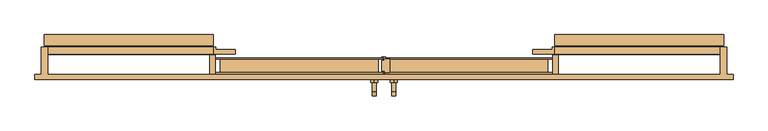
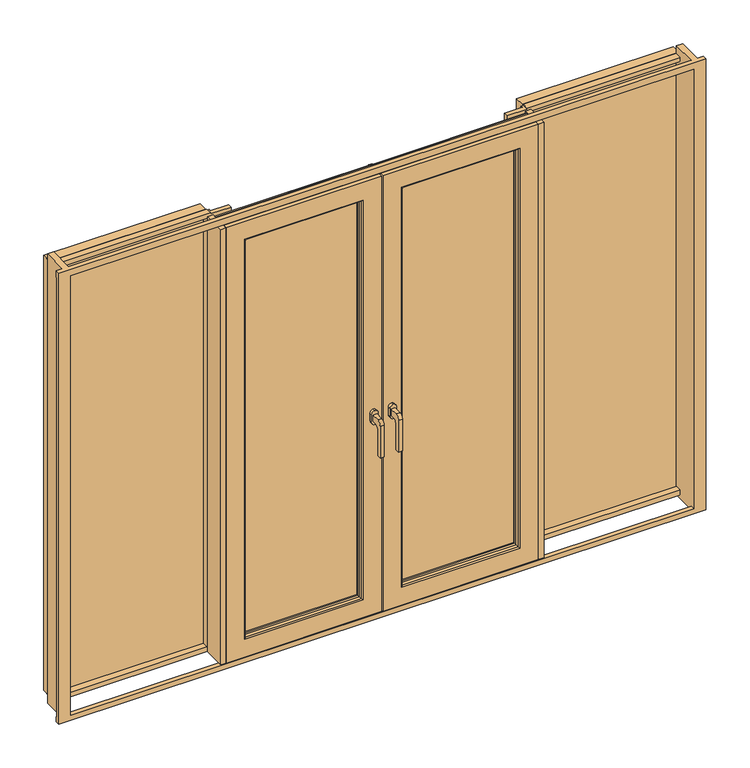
"""IFC4 building model written with IfcOpenShell, lengths in millimetres: door geometry, 4_pod-kli_2+2fix : 4_pod-kli_2+2fix."""

import ifcopenshell
import ifcopenshell.guid

model = None  # the IFC model being written
_history = None  # IfcOwnerHistory: only IFC2X3 demands one
_inside = {}  # id of a spatial element -> (the spatial element, [elements in it])
_under = {}  # id of a project, library or spatial element -> (it, [spatial elements below it])
_declared = {}  # id of a project -> (the project, [libraries it declares])
_typed = {}  # id of a type object -> (the type object, [elements of that type])
_made_of = {}  # id of a material, layer set ... -> (it, [elements and type objects made of it])


def new_model(schema):
    """Start an empty IFC model of exactly this schema.

    Asked for "IFC4X3", IfcOpenShell would pick the latest addendum, in which some entities
    have other attributes; the version numbers below select the first issue.
    IFC2X3 requires an IfcOwnerHistory on every rooted entity: one is made here for all.
    """
    global model, _history
    if schema == "IFC4X3":
        model = ifcopenshell.file(schema_version=(4, 3, 0, 0))
    else:
        model = ifcopenshell.file(schema=schema)
    _inside.clear()
    _under.clear()
    _declared.clear()
    _typed.clear()
    _made_of.clear()
    _history = None
    if model.schema == "IFC2X3":
        org = make("IfcOrganization", Name="unknown")
        user = make(
            "IfcPersonAndOrganization",
            ThePerson=make("IfcPerson", FamilyName="unknown"),
            TheOrganization=org,
        )
        app = make(
            "IfcApplication",
            ApplicationDeveloper=org,
            Version="unknown",
            ApplicationFullName="unknown",
            ApplicationIdentifier="unknown",
        )
        _history = make(
            "IfcOwnerHistory",
            OwningUser=user,
            OwningApplication=app,
            ChangeAction="ADDED",
            CreationDate=0,
        )
    return model


def make(cls, **values):
    """One entity of the class cls with the attributes given. An attribute that is None is left unset."""
    return model.create_entity(
        cls, **{name: value for name, value in values.items() if value is not None}
    )


def rooted(cls, **values):
    """An entity with a GlobalId (a new one), such as an element, a storey or a relation."""
    return make(cls, GlobalId=ifcopenshell.guid.new(), OwnerHistory=_history, **values)


def si_unit(unit_type, name, prefix=None):
    """IfcSIUnit, for example si_unit("LENGTHUNIT", "METRE", prefix="MILLI")."""
    return make("IfcSIUnit", UnitType=unit_type, Prefix=prefix, Name=name)


def assignment(units):
    """IfcUnitAssignment: the units of a project."""
    return None if units is None else make("IfcUnitAssignment", Units=units)


def point(xyz):
    """IfcCartesianPoint."""
    return None if xyz is None else make("IfcCartesianPoint", Coordinates=xyz)


def direction(xyz):
    """IfcDirection."""
    return None if xyz is None else make("IfcDirection", DirectionRatios=xyz)


def frame(location, z_axis=None, x_axis=None):
    """IfcAxis2Placement3D, a coordinate frame: its origin and axes. An axis left out is left unset."""
    return make(
        "IfcAxis2Placement3D",
        Location=point(location),
        Axis=direction(z_axis),
        RefDirection=direction(x_axis),
    )


def frame_2d(location, x_axis=None):
    """IfcAxis2Placement2D, a coordinate frame in the plane: its origin and x axis."""
    return make(
        "IfcAxis2Placement2D", Location=point(location), RefDirection=direction(x_axis)
    )


def origin():
    """The frame at (0, 0, 0) with its axes left unset."""
    return frame((0.0, 0.0, 0.0))


def place(relative_to, where):
    """IfcLocalPlacement: puts the frame where relative to a parent placement (None: the world)."""
    return make(
        "IfcLocalPlacement", PlacementRelTo=relative_to, RelativePlacement=where
    )


def context(
    kind, dimensions, precision=None, world=None, true_north=None, identifier=None
):
    """IfcGeometricRepresentationContext, for example the 3D "Model" context."""
    return make(
        "IfcGeometricRepresentationContext",
        ContextIdentifier=identifier,
        ContextType=kind,
        CoordinateSpaceDimension=dimensions,
        Precision=precision,
        WorldCoordinateSystem=world,
        TrueNorth=true_north,
    )


def project(units=None, contexts=None):
    """IfcProject with its units and contexts."""
    return rooted(
        "IfcProject",
        Name="project",
        RepresentationContexts=contexts,
        UnitsInContext=assignment(units),
    )


def spatial(cls, under=None, at=None, **own):
    """A site, building, storey or space (cls), placed at a placement, below another one or the project."""
    s = rooted(cls, ObjectPlacement=at, **own)
    if under is not None:
        _under.setdefault(under.id(), (under, []))[1].append(s)
    return s


def polyline(points):
    """IfcPolyline through the points."""
    return make("IfcPolyline", Points=[point(p) for p in points])


def circle_curve(where, radius):
    """IfcCircle in the frame where."""
    return make("IfcCircle", Position=where, Radius=radius)


def ellipse_curve(where, semi_axis1, semi_axis2):
    """IfcEllipse in the frame where."""
    return make(
        "IfcEllipse", Position=where, SemiAxis1=semi_axis1, SemiAxis2=semi_axis2
    )


def trimmed(basis, trim1, trim2, sense, master):
    """IfcTrimmedCurve: the piece of a basis curve between two trims."""
    return make(
        "IfcTrimmedCurve",
        BasisCurve=basis,
        Trim1=trim1,
        Trim2=trim2,
        SenseAgreement=sense,
        MasterRepresentation=master,
    )


def segment(curve, same_sense, transition):
    """IfcCompositeCurveSegment."""
    return make(
        "IfcCompositeCurveSegment",
        Transition=transition,
        SameSense=same_sense,
        ParentCurve=curve,
    )


def composite_curve(segments, self_intersect=None):
    """IfcCompositeCurve: segments joined end to end."""
    return make("IfcCompositeCurve", Segments=segments, SelfIntersect=self_intersect)


def outline(outer, holes=None, kind="AREA"):
    """IfcArbitraryClosedProfileDef: a profile drawn as a closed curve; with holes, ...WithVoids."""
    if holes is None:
        return make("IfcArbitraryClosedProfileDef", ProfileType=kind, OuterCurve=outer)
    return make(
        "IfcArbitraryProfileDefWithVoids",
        ProfileType=kind,
        OuterCurve=outer,
        InnerCurves=holes,
    )


def extrude(swept, where, along, depth):
    """IfcExtrudedAreaSolid: the profile swept, set in the frame where, extruded along a direction by depth."""
    return make(
        "IfcExtrudedAreaSolid",
        SweptArea=swept,
        Position=where,
        ExtrudedDirection=direction(along),
        Depth=depth,
    )


def faces_of(points, faces, orient=None, outer=None):
    """IfcFace entities. A face is a list of loops; a loop is a list of indices into points, from 0.

    orient and outer hold one flag for each loop. By default every Orientation is true, the
    first loop of a face is its IfcFaceOuterBound and the others are IfcFaceBound.
    """
    made = []
    for i, loops in enumerate(faces):
        bounds = []
        for j, loop in enumerate(loops):
            is_outer = j == 0 if outer is None else outer[i][j]
            bounds.append(
                make(
                    "IfcFaceOuterBound" if is_outer else "IfcFaceBound",
                    Bound=make("IfcPolyLoop", Polygon=[points[k] for k in loop]),
                    Orientation=True if orient is None else orient[i][j],
                )
            )
        made.append(make("IfcFace", Bounds=bounds))
    return made


def faceted_brep(points, faces, orient=None, outer=None, voids=None):
    """IfcFacetedBrep: a solid bounded by flat faces; with voids (closed shells), ...WithVoids."""
    shared = [point(p) for p in points]
    hull = make("IfcClosedShell", CfsFaces=faces_of(shared, faces, orient, outer))
    if voids is None:
        return make("IfcFacetedBrep", Outer=hull)
    return make(
        "IfcFacetedBrepWithVoids",
        Outer=hull,
        Voids=[
            make(cls, CfsFaces=faces_of(shared, fs, o, b)) for cls, fs, o, b in voids
        ],
    )


def shape(context_of_items, identifier, shape_type, items):
    """IfcShapeRepresentation: the items that make up one representation, for example the "Body"."""
    return make(
        "IfcShapeRepresentation",
        ContextOfItems=context_of_items,
        RepresentationIdentifier=identifier,
        RepresentationType=shape_type,
        Items=items,
    )


def source(mapping_origin, context_of_items, identifier, shape_type, items):
    """IfcRepresentationMap: a shape defined once, which mapped items show again and again."""
    return make(
        "IfcRepresentationMap",
        MappingOrigin=mapping_origin,
        MappedRepresentation=shape(context_of_items, identifier, shape_type, items),
    )


def transform(
    local_origin,
    x_axis=None,
    y_axis=None,
    z_axis=None,
    scale=None,
    scale2=None,
    scale3=None,
    uniform=True,
):
    """IfcCartesianTransformationOperator3D, or its non-uniform kind. x_axis, y_axis, z_axis: its Axis1, 2, 3."""
    if uniform:
        return make(
            "IfcCartesianTransformationOperator3D",
            Axis1=direction(x_axis),
            Axis2=direction(y_axis),
            LocalOrigin=point(local_origin),
            Scale=scale,
            Axis3=direction(z_axis),
        )
    return make(
        "IfcCartesianTransformationOperator3DnonUniform",
        Axis1=direction(x_axis),
        Axis2=direction(y_axis),
        LocalOrigin=point(local_origin),
        Scale=scale,
        Axis3=direction(z_axis),
        Scale2=scale2,
        Scale3=scale3,
    )


def mapped(mapping_source, mapping_target):
    """IfcMappedItem: shows the shape of a source again, moved by a transform."""
    return make(
        "IfcMappedItem", MappingSource=mapping_source, MappingTarget=mapping_target
    )


def made_of(thing, what):
    """Note that an element or type object is made of a material, layer set ...; save() writes the relation."""
    if what is not None:
        _made_of.setdefault(what.id(), (what, []))[1].append(thing)
    return thing


def element(
    cls,
    number,
    at=None,
    inside=None,
    cuts=None,
    type_object=None,
    material=None,
    context=None,
    identifier="Body",
    shape_type=None,
    held_by="IfcProductDefinitionShape",
    body=None,
    shapes=None,
    **own,
):
    """One element of the class cls, such as IfcWall. Its Tag is "e" and its number.

    at: its placement. inside: the storey or other place that contains it. cuts: it is an
    opening in that element (IfcRelVoidsElement). A single representation is given by context,
    identifier, shape_type and body (its items); several are given by shapes. held_by: the class
    of the entity that holds the representations. save() writes the other relations.
    """
    e = rooted(cls, Tag="e%d" % number, ObjectPlacement=at, **own)
    if body is not None:
        shapes = [shape(context, identifier, shape_type, body)]
    if shapes is not None:
        e.Representation = make(held_by, Representations=shapes)
    if inside is not None:
        _inside.setdefault(inside.id(), (inside, []))[1].append(e)
    if cuts is not None:
        rooted(
            "IfcRelVoidsElement", RelatingBuildingElement=cuts, RelatedOpeningElement=e
        )
    if type_object is not None:
        _typed.setdefault(type_object.id(), (type_object, []))[1].append(e)
    return made_of(e, material)


def aggregate(whole, parts):
    """IfcRelAggregates: a whole, such as a stair, and the parts it consists of."""
    return rooted("IfcRelAggregates", RelatingObject=whole, RelatedObjects=parts)


def save(model, path):
    """Write the relations noted so far, then the file.

    IfcRelAggregates (storeys below a building ...), IfcRelContainedInSpatialStructure (elements
    in a storey), IfcRelDefinesByType, IfcRelAssociatesMaterial and IfcRelDeclares: one each for
    every whole, place, type object, material and project.
    """
    for whole, parts in _under.values():
        aggregate(whole, parts)
    for where, things in _inside.values():
        rooted(
            "IfcRelContainedInSpatialStructure",
            RelatedElements=things,
            RelatingStructure=where,
        )
    for kind, things in _typed.values():
        rooted("IfcRelDefinesByType", RelatedObjects=things, RelatingType=kind)
    for what, things in _made_of.values():
        rooted("IfcRelAssociatesMaterial", RelatedObjects=things, RelatingMaterial=what)
    for by, libraries in _declared.values():
        rooted("IfcRelDeclares", RelatingContext=by, RelatedDefinitions=libraries)
    model.write(path)


def plane_surface(at):
    """IfcPlane: the flat surface through the origin of the frame at, square to its z axis."""
    return make("IfcPlane", Position=at)


def cylinder_surface(at, radius):
    """IfcCylindricalSurface: all points at the distance radius from the z axis of the frame at."""
    return make("IfcCylindricalSurface", Position=at, Radius=radius)


def advanced_brep(points, edges, surfaces, faces):
    """IfcAdvancedBrep: a solid bounded by faces that lie on surfaces and meet in shared edges.

    An edge is (start, end): straight between two places in points (the first is 0);
    or (start, end, curve); or (start, end, curve, False) where it runs against its curve.
    A face is (place in surfaces, loops), or (place, loops, False) where it looks against
    its surface's normal. A loop lists edges by number (the first is 1), with a minus sign
    where the edge is run from its end to its start. The first loop is the outer one.
    """
    corners = [point(p) for p in points]
    vertices = [make("IfcVertexPoint", VertexGeometry=c) for c in corners]
    made = []
    for start, end, *more in edges:
        made.append(
            make(
                "IfcEdgeCurve",
                EdgeStart=vertices[start],
                EdgeEnd=vertices[end],
                EdgeGeometry=more[0] if more else make("IfcPolyline", Points=[corners[start], corners[end]]),
                SameSense=more[1] if len(more) > 1 else True,
            )
        )
    hull = []
    for where, loops, *sense in faces:
        bounds = []
        for j, loop in enumerate(loops):
            ring = [make("IfcOrientedEdge", EdgeElement=made[abs(k) - 1], Orientation=k > 0) for k in loop]
            bounds.append(
                make(
                    "IfcFaceOuterBound" if j == 0 else "IfcFaceBound",
                    Bound=make("IfcEdgeLoop", EdgeList=ring),
                    Orientation=True,
                )
            )
        hull.append(make("IfcAdvancedFace", Bounds=bounds, FaceSurface=surfaces[where], SameSense=sense[0] if sense else True))
    return make("IfcAdvancedBrep", Outer=make("IfcClosedShell", CfsFaces=hull))


def door_345c49a9(model_context):
    return source(origin(), model_context, "Body", "SolidModel", [
        extrude(outline(composite_curve([segment(polyline([(-88.0, 985.0), (-104.0, 985.0)]), True, "CONTINUOUS"), segment(trimmed(circle_curve(frame_2d((-104.0, 960.0)), 25.0), [point((-104.0, 985.0))], [point((-129.0, 960.0))], True, "CARTESIAN"), True, "CONTINUOUS"), segment(polyline([(-129.0, 960.0), (-129.0, 840.0), (-147.0, 840.0), (-147.0, 995.0)]), True, "CONTINUOUS"), segment(trimmed(circle_curve(frame_2d((-127.0, 995.0)), 20.0), [point((-147.0, 995.0))], [point((-127.0, 1015.0))], False, "CARTESIAN"), True, "CONTINUOUS"), segment(polyline([(-127.0, 1015.0), (-88.0, 1015.0), (-88.0, 1000.0), (-88.0, 985.0)]), True, "CONTINUOUS")], self_intersect=False)), frame((-50.8923101, 0.0, 0.0), z_axis=(1.0, 0.0, 0.0), x_axis=(0.0, 1.0, 0.0)), (0.0, 0.0, 1.0), 18.0),
        extrude(outline(composite_curve([segment(polyline([(981.0, -26.8923101), (1019.0, -26.8923101)]), True, "CONTINUOUS"), segment(trimmed(circle_curve(frame_2d((1019.0, -41.8923101)), 15.0), [point((1019.0, -26.8923101))], [point((1034.0, -41.8923101))], False, "CARTESIAN"), True, "CONTINUOUS"), segment(trimmed(circle_curve(frame_2d((1019.0, -41.8923101)), 15.0), [point((1034.0, -41.8923101))], [point((1019.0, -56.8923101))], False, "CARTESIAN"), True, "CONTINUOUS"), segment(polyline([(1019.0, -56.8923101), (981.0, -56.8923101)]), True, "CONTINUOUS"), segment(trimmed(circle_curve(frame_2d((981.0, -41.8923101)), 15.0), [point((981.0, -56.8923101))], [point((966.0, -41.8923101))], False, "CARTESIAN"), True, "CONTINUOUS"), segment(trimmed(circle_curve(frame_2d((981.0, -41.8923101)), 15.0), [point((966.0, -41.8923101))], [point((981.0, -26.8923101))], False, "CARTESIAN"), True, "CONTINUOUS")], self_intersect=False)), frame((0.0, -88.0, 0.0), z_axis=(0.0, 1.0, 0.0), x_axis=(0.0, 0.0, 1.0)), (0.0, 0.0, 1.0), 13.0),
        extrude(outline(polyline([(-749.7497424, -75.0), (-749.7497424, 30.0016512), (-724.45, 30.0016512), (-724.45, -75.0), (-749.7497424, -75.0)])), frame((0.0, 0.0, 27.9994282), z_axis=(0.0, 0.0, 1.0), x_axis=(1.0, 0.0, 0.0)), (0.0, 0.0, 1.0), 2132.0005718),
        advanced_brep(
        [(-638.0766475, -75.0000001, 2073.6269051), (-638.0766475, -75.0000001, 114.3730949), (-633.1239089, -70.6858427, 119.3258335), (-633.1239089, -70.6858427, 2068.6741665), (-630.9503043, -54.9893924, 121.4994381), (-630.9503043, -54.9893924, 2066.5005619), (-88.8730949, -75.0000001, 114.3730949), (-93.8258335, -70.6858427, 119.3258335), (-724.4497424, -75.0, 2160.0), (-724.4497424, -75.0, 28.0), (-2.5, -75.0, 28.0), (-2.5, -75.0, 2160.0), (-88.8730949, -75.0, 2073.6269051), (-724.4497424, -54.8399769, 2160.0), (-724.4497424, -54.8399769, 28.0), (-2.5, -54.8399769, 28.0), (-2.5, -54.8399769, 2160.0), (-657.3503043, -54.8399769, 2092.9005619), (-657.3503043, -54.8399769, 95.0994381), (-69.5994381, -54.8399769, 95.0994381), (-69.5994381, -54.8399769, 2092.9005619), (-657.3503043, -44.9908997, 2092.9005619), (-657.3503043, -44.9908997, 95.0994381), (-69.5994381, -44.9908997, 95.0994381), (-69.5994381, -44.9908997, 2092.9005619), (-630.9503043, -44.9908997, 2066.5005619), (-630.9503043, -44.9908997, 121.4994381), (-95.9994381, -44.9908997, 121.4994381), (-95.9994381, -44.9908997, 2066.5005619), (-95.9994381, -54.9893924, 121.4994381), (-93.8258335, -70.6858427, 2068.6741665), (-95.9994381, -54.9893924, 2066.5005619)],
        [
            (0, 1),
            (1, 2, ellipse_curve(frame((-638.0766475, -70.0000001, 114.3730949), z_axis=(-0.7071067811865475, 0.0, 0.7071067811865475), x_axis=(0.7071067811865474, 0.0, 0.7071067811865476)), 7.0710678, 5.0)),
            (2, 3),
            (3, 0, ellipse_curve(frame((-638.0766475, -70.0000001, 2073.6269051), z_axis=(-0.7071067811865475, 0.0, -0.7071067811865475), x_axis=(-0.7071067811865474, 0.0, 0.7071067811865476)), 7.0710678, 5.0)),
            (2, 4),
            (4, 5),
            (5, 3),
            (1, 6),
            (6, 7, ellipse_curve(frame((-88.8730949, -70.0000001, 114.3730949), z_axis=(-0.7071067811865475, 0.0, -0.7071067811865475), x_axis=(-0.7071067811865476, 0.0, 0.7071067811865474)), 7.0710678, 5.0)),
            (7, 2),
            (8, 9),
            (9, 10),
            (10, 11),
            (11, 8),
            (0, 12),
            (12, 6),
            (13, 14),
            (14, 9),
            (8, 13),
            (14, 15),
            (15, 10),
            (13, 16),
            (16, 15),
            (17, 18),
            (18, 19),
            (19, 20),
            (20, 17),
            (21, 22),
            (22, 18),
            (17, 21),
            (22, 23),
            (23, 19),
            (21, 24),
            (24, 23),
            (25, 26),
            (26, 27),
            (27, 28),
            (28, 25),
            (4, 26),
            (25, 5),
            (4, 29),
            (29, 27),
            (7, 29),
            (12, 30, ellipse_curve(frame((-88.8730949, -70.0000001, 2073.6269051), z_axis=(0.7071067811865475, 0.0, -0.7071067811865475), x_axis=(-0.7071067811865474, 0.0, -0.7071067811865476)), 7.0710678, 5.0)),
            (30, 7),
            (16, 11),
            (24, 20),
            (29, 31),
            (31, 28),
            (30, 31),
            (3, 30),
            (31, 5),
        ],
        [
            cylinder_surface(frame((-638.0766475, -70.0000001, 2188.0), z_axis=(0.0, 0.0, 1.0), x_axis=(-0.00014757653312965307, -0.9999999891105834, 0.0)), 5.0),
            plane_surface(frame((-630.9503043, -54.9893924, 2066.5005619), z_axis=(0.9905477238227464, -0.13716853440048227, 0.0), x_axis=(0.0, 0.0, -1.0))),
            cylinder_surface(frame((-752.4497424, -70.0000001, 114.3730949), z_axis=(-1.0, 0.0, 0.0), x_axis=(0.0, -0.9999999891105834, -0.00014757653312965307)), 5.0),
            plane_surface(frame((-88.8730949, -75.0, 2073.6269051), z_axis=(0.0, -1.0, 0.0), x_axis=(-1.0, 0.0, 0.0))),
            plane_surface(frame((-724.4497424, -75.0, 2160.0), z_axis=(-1.0, 0.0, 0.0), x_axis=(0.0, 0.0, -1.0))),
            plane_surface(frame((-724.4497424, -75.0, 28.0), z_axis=(0.0, 0.0, -1.0), x_axis=(1.0, 0.0, 0.0))),
            plane_surface(frame((-2.5, -54.8399769, 2160.0), z_axis=(0.0, 1.0, 0.0), x_axis=(-1.0, 0.0, 0.0))),
            plane_surface(frame((-657.3503043, -54.8399769, 2092.9005619), z_axis=(-1.0, 0.0, 0.0), x_axis=(0.0, 0.0, -1.0))),
            plane_surface(frame((-657.3503043, -54.8399769, 95.0994381), z_axis=(0.0, 0.0, -1.0), x_axis=(1.0, 0.0, 0.0))),
            plane_surface(frame((-69.5994381, -44.9908997, 2092.9005619), z_axis=(0.0, 1.0, 0.0), x_axis=(-1.0, 0.0, 0.0))),
            plane_surface(frame((-630.9503043, -44.9908997, 2066.5005619), z_axis=(1.0, 0.0, 0.0), x_axis=(0.0, 0.0, -1.0))),
            plane_surface(frame((-630.9503043, -44.9908997, 121.4994381), z_axis=(0.0, 0.0, 1.0), x_axis=(1.0, 0.0, 0.0))),
            plane_surface(frame((-630.9503043, -54.9893924, 121.4994381), z_axis=(0.0, -0.13716853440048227, 0.9905477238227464), x_axis=(1.0, 0.0, 0.0))),
            cylinder_surface(frame((-88.8730949, -70.0000001, 0.0), z_axis=(0.0, 0.0, -1.0), x_axis=(0.00014757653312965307, -0.9999999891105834, 0.0)), 5.0),
            plane_surface(frame((-2.5, -75.0, 28.0), z_axis=(1.0, 0.0, 0.0), x_axis=(0.0, 0.0, 1.0))),
            plane_surface(frame((-69.5994381, -54.8399769, 95.0994381), z_axis=(1.0, 0.0, 0.0), x_axis=(0.0, 0.0, 1.0))),
            plane_surface(frame((-95.9994381, -44.9908997, 121.4994381), z_axis=(-1.0, 0.0, 0.0), x_axis=(0.0, 0.0, 1.0))),
            plane_surface(frame((-95.9994381, -54.9893924, 121.4994381), z_axis=(-0.9905477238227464, -0.13716853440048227, 0.0), x_axis=(0.0, 0.0, 1.0))),
            cylinder_surface(frame((25.5, -70.0000001, 2073.6269051), z_axis=(1.0, 0.0, 0.0), x_axis=(0.0, -0.9999999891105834, 0.00014757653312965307)), 5.0),
            plane_surface(frame((-2.5, -75.0, 2160.0), z_axis=(0.0, 0.0, 1.0), x_axis=(-1.0, 0.0, 0.0))),
            plane_surface(frame((-69.5994381, -54.8399769, 2092.9005619), z_axis=(0.0, 0.0, 1.0), x_axis=(-1.0, 0.0, 0.0))),
            plane_surface(frame((-95.9994381, -44.9908997, 2066.5005619), z_axis=(0.0, 0.0, -1.0), x_axis=(-1.0, 0.0, 0.0))),
            plane_surface(frame((-95.9994381, -54.9893924, 2066.5005619), z_axis=(0.0, -0.13716853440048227, -0.9905477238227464), x_axis=(-1.0, 0.0, 0.0))),
        ],
        [
            (0, [[1, 2, 3, 4]]),
            (1, [[-3, 5, 6, 7]]),
            (2, [[8, 9, 10, -2]]),
            (3, [[11, 12, 13, 14], [-1, 15, 16, -8]]),
            (4, [[17, 18, -11, 19]]),
            (5, [[20, 21, -12, -18]]),
            (6, [[-17, 22, 23, -20], [24, 25, 26, 27]]),
            (7, [[28, 29, -24, 30]]),
            (8, [[31, 32, -25, -29]]),
            (9, [[-28, 33, 34, -31], [35, 36, 37, 38]]),
            (10, [[-6, 39, -35, 40]]),
            (11, [[41, 42, -36, -39]]),
            (12, [[-10, 43, -41, -5]]),
            (13, [[-16, 44, 45, -9]]),
            (14, [[-23, 46, -13, -21]]),
            (15, [[-34, 47, -26, -32]]),
            (16, [[48, 49, -37, -42]]),
            (17, [[-45, 50, -48, -43]]),
            (18, [[-15, -4, 51, -44]]),
            (19, [[-22, -19, -14, -46]]),
            (20, [[-33, -30, -27, -47]]),
            (21, [[52, -40, -38, -49]]),
            (22, [[-51, -7, -52, -50]]),
        ],
    ),
        extrude(outline(polyline([(-646.95031, -36.9872085), (-646.95031, 9.0127085), (-79.9994325, 9.0127085), (-79.9994325, -36.9872085), (-646.95031, -36.9872085)])), frame((0.0, 0.0, 105.4994325), z_axis=(0.0, 0.0, 1.0), x_axis=(1.0, 0.0, 0.0)), (0.0, 0.0, 1.0), 1977.001135),
        faceted_brep([(-2.5, -54.8399769, 28.0), (-724.4497424, -54.8399769, 28.0), (-724.4497424, -45.6389612, 28.0), (-2.5, -45.6389612, 28.0), (-724.4497424, -54.8399769, 2160.0), (-724.4497424, -45.6389612, 2160.0), (-2.5, -45.6389612, 2160.0), (-702.9503146, -45.6389612, 2138.5005722), (-702.9503146, -45.6389612, 49.4994278), (-23.9994278, -45.6389612, 49.4994278), (-23.9994278, -45.6389612, 2138.5005722), (-2.5, -54.8399769, 2160.0), (-657.3503043, -54.8399769, 95.0994381), (-657.3503043, -54.8399769, 2092.9005619), (-69.5994381, -54.8399769, 2092.9005619), (-69.5994381, -54.8399769, 95.0994381), (-69.5994381, -44.9908997, 95.0994381), (-657.3503043, -44.9908997, 95.0994381), (-657.3503043, -44.9908997, 2092.9005619), (-69.5994381, -44.9908997, 2092.9005619), (-630.9503043, -44.9908997, 121.4994381), (-630.9503043, -44.9908997, 2066.5005619), (-95.9994381, -44.9908997, 2066.5005619), (-95.9994381, -44.9908997, 121.4994381), (-95.9994381, -36.9872085, 121.4994381), (-630.9503043, -36.9872085, 121.4994381), (-630.9503043, -36.9872085, 2066.5005619), (-646.95031, -36.9872085, 105.4994325), (-646.95031, -36.9872085, 2082.5005675), (-79.9994325, -36.9872085, 2082.5005675), (-79.9994325, -36.9872085, 105.4994325), (-95.9994381, -36.9872085, 2066.5005619), (-79.9994325, 9.0127085, 105.4994325), (-646.95031, 9.0127085, 105.4994325), (-646.95031, 9.0127085, 2082.5005675), (-79.9994325, 9.0127085, 2082.5005675), (-631.950315, 9.0127085, 120.4994274), (-631.950315, 9.0127085, 2067.5005726), (-94.9994274, 9.0127085, 2067.5005726), (-94.9994274, 9.0127085, 120.4994274), (-94.9994274, 17.0100227, 120.4994274), (-631.950315, 17.0100227, 120.4994274), (-631.950315, 17.0100227, 2067.5005726), (-724.4503143, 17.0100227, 27.9994282), (-724.4503143, 17.0100227, 2160.0005718), (-2.4994282, 17.0100227, 2160.0005718), (-2.4994282, 17.0100227, 27.9994282), (-94.9994274, 17.0100227, 2067.5005726), (-2.4994282, 12.5090496, 27.9994282), (-724.4503143, 12.5090496, 27.9994282), (-724.4503143, 12.5090496, 2160.0005718), (-2.4994282, 12.5090496, 2160.0005718), (-702.9503146, 12.5090496, 49.4994278), (-702.9503146, 12.5090496, 2138.5005722), (-23.9994278, 12.5090496, 2138.5005722), (-23.9994278, 12.5090496, 49.4994278)], [[[0, 1, 2, 3]], [[1, 4, 5, 2]], [[2, 5, 6, 3], [7, 8, 9, 10]], [[4, 1, 0, 11], [12, 13, 14, 15]], [[16, 17, 12, 15]], [[17, 18, 13, 12]], [[18, 17, 16, 19], [20, 21, 22, 23]], [[24, 25, 20, 23]], [[25, 26, 21, 20]], [[27, 28, 29, 30], [26, 25, 24, 31]], [[32, 33, 27, 30]], [[33, 34, 28, 27]], [[34, 33, 32, 35], [36, 37, 38, 39]], [[40, 41, 36, 39]], [[41, 42, 37, 36]], [[43, 44, 45, 46], [42, 41, 40, 47]], [[48, 49, 43, 46]], [[49, 50, 44, 43]], [[50, 49, 48, 51], [52, 53, 54, 55]], [[9, 8, 52, 55]], [[8, 7, 53, 52]], [[11, 0, 3, 6]], [[19, 16, 15, 14]], [[31, 24, 23, 22]], [[35, 32, 30, 29]], [[47, 40, 39, 38]], [[51, 48, 46, 45]], [[10, 9, 55, 54]], [[4, 11, 6, 5]], [[18, 19, 14, 13]], [[26, 31, 22, 21]], [[34, 35, 29, 28]], [[42, 47, 38, 37]], [[50, 51, 45, 44]], [[7, 10, 54, 53]]]),
        extrude(outline(composite_curve([segment(polyline([(-88.0, 985.0), (-104.0, 985.0)]), True, "CONTINUOUS"), segment(trimmed(circle_curve(frame_2d((-104.0, 960.0)), 25.0), [point((-104.0, 985.0))], [point((-129.0, 960.0))], True, "CARTESIAN"), True, "CONTINUOUS"), segment(polyline([(-129.0, 960.0), (-129.0, 840.0), (-147.0, 840.0), (-147.0, 995.0)]), True, "CONTINUOUS"), segment(trimmed(circle_curve(frame_2d((-127.0, 995.0)), 20.0), [point((-147.0, 995.0))], [point((-127.0, 1015.0))], False, "CARTESIAN"), True, "CONTINUOUS"), segment(polyline([(-127.0, 1015.0), (-88.0, 1015.0), (-88.0, 1000.0), (-88.0, 985.0)]), True, "CONTINUOUS")], self_intersect=False)), frame((33.5, 0.0, 0.0), z_axis=(1.0, 0.0, 0.0), x_axis=(0.0, 1.0, 0.0)), (0.0, 0.0, 1.0), 18.0),
        extrude(outline(composite_curve([segment(trimmed(circle_curve(frame_2d((981.0, 42.5)), 15.0), [point((981.0, 27.5))], [point((966.0, 42.5))], False, "CARTESIAN"), True, "CONTINUOUS"), segment(trimmed(circle_curve(frame_2d((981.0, 42.5)), 15.0), [point((966.0, 42.5))], [point((981.0, 57.5))], False, "CARTESIAN"), True, "CONTINUOUS"), segment(polyline([(981.0, 57.5), (1019.0, 57.5)]), True, "CONTINUOUS"), segment(trimmed(circle_curve(frame_2d((1019.0, 42.5)), 15.0), [point((1019.0, 57.5))], [point((1034.0, 42.5))], False, "CARTESIAN"), True, "CONTINUOUS"), segment(trimmed(circle_curve(frame_2d((1019.0, 42.5)), 15.0), [point((1034.0, 42.5))], [point((1019.0, 27.5))], False, "CARTESIAN"), True, "CONTINUOUS"), segment(polyline([(1019.0, 27.5), (981.0, 27.5)]), True, "CONTINUOUS")], self_intersect=False)), frame((0.0, -88.0, 0.0), z_axis=(0.0, 1.0, 0.0), x_axis=(0.0, 0.0, 1.0)), (0.0, 0.0, 1.0), 13.0),
        extrude(outline(polyline([(2.4994282, 12.5016459), (23.9994278, 12.5016459), (23.9994278, -45.647338), (2.5000003, -45.647338), (2.5000003, -41.8000908), (-9.4963189, -39.400827), (-9.4963189, 6.6369539), (0.3030129, 8.5716548), (0.3030129, 17.002619), (-9.4969871, 17.002619), (-9.4969871, 21.097066), (7.3030129, 21.097066), (7.3030129, 17.002619), (2.4994282, 17.002619), (2.4994282, 12.5016459)])), frame((0.0, 0.0, 27.9994282), z_axis=(0.0, 0.0, 1.0), x_axis=(1.0, 0.0, 0.0)), (0.0, 0.0, 1.0), 2132.0005718),
        extrude(outline(polyline([(749.7497424, -75.0), (724.45, -75.0), (724.45, 30.0016512), (749.7497424, 30.0016512), (749.7497424, -75.0)])), frame((0.0, 0.0, 27.9994282), z_axis=(0.0, 0.0, 1.0), x_axis=(1.0, 0.0, 0.0)), (0.0, 0.0, 1.0), 2132.0005718),
        advanced_brep(
        [(638.0766475, -75.0000001, 2073.6269051), (633.1239089, -70.6858427, 2068.6741665), (633.1239089, -70.6858427, 119.3258335), (638.0766475, -75.0000001, 114.3730949), (630.9503043, -54.9893924, 2066.5005619), (630.9503043, -54.9893924, 121.4994381), (93.8258335, -70.6858427, 119.3258335), (88.8730949, -75.0000001, 114.3730949), (724.4497424, -75.0, 2160.0), (2.5, -75.0, 2160.0), (2.5, -75.0, 28.0), (724.4497424, -75.0, 28.0), (88.8730949, -75.0, 2073.6269051), (724.4497424, -54.8399769, 2160.0), (724.4497424, -54.8399769, 28.0), (2.5, -54.8399769, 28.0), (2.5, -54.8399769, 2160.0), (657.3503043, -54.8399769, 2092.9005619), (69.5994381, -54.8399769, 2092.9005619), (69.5994381, -54.8399769, 95.0994381), (657.3503043, -54.8399769, 95.0994381), (657.3503043, -44.9908997, 2092.9005619), (657.3503043, -44.9908997, 95.0994381), (69.5994381, -44.9908997, 95.0994381), (69.5994381, -44.9908997, 2092.9005619), (630.9503043, -44.9908997, 2066.5005619), (95.9994381, -44.9908997, 2066.5005619), (95.9994381, -44.9908997, 121.4994381), (630.9503043, -44.9908997, 121.4994381), (95.9994381, -54.9893924, 121.4994381), (93.8258335, -70.6858427, 2068.6741665), (95.9994381, -54.9893924, 2066.5005619)],
        [
            (0, 1, ellipse_curve(frame((638.0766475, -70.0000001, 2073.6269051), z_axis=(0.7071067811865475, 0.0, -0.7071067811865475), x_axis=(0.7071067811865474, 0.0, 0.7071067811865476)), 7.0710678, 5.0)),
            (1, 2),
            (2, 3, ellipse_curve(frame((638.0766475, -70.0000001, 114.3730949), z_axis=(0.7071067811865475, 0.0, 0.7071067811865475), x_axis=(-0.7071067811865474, 0.0, 0.7071067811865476)), 7.0710678, 5.0)),
            (3, 0),
            (1, 4),
            (4, 5),
            (5, 2),
            (2, 6),
            (6, 7, ellipse_curve(frame((88.8730949, -70.0000001, 114.3730949), z_axis=(0.7071067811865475, 0.0, -0.7071067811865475), x_axis=(0.7071067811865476, 0.0, 0.7071067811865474)), 7.0710678, 5.0)),
            (7, 3),
            (8, 9),
            (9, 10),
            (10, 11),
            (11, 8),
            (7, 12),
            (12, 0),
            (13, 8),
            (11, 14),
            (14, 13),
            (10, 15),
            (15, 14),
            (15, 16),
            (16, 13),
            (17, 18),
            (18, 19),
            (19, 20),
            (20, 17),
            (21, 17),
            (20, 22),
            (22, 21),
            (19, 23),
            (23, 22),
            (23, 24),
            (24, 21),
            (25, 26),
            (26, 27),
            (27, 28),
            (28, 25),
            (4, 25),
            (28, 5),
            (27, 29),
            (29, 5),
            (29, 6),
            (6, 30),
            (30, 12, ellipse_curve(frame((88.8730949, -70.0000001, 2073.6269051), z_axis=(-0.7071067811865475, 0.0, -0.7071067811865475), x_axis=(0.7071067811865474, 0.0, -0.7071067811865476)), 7.0710678, 5.0)),
            (9, 16),
            (18, 24),
            (26, 31),
            (31, 29),
            (31, 30),
            (30, 1),
            (4, 31),
        ],
        [
            cylinder_surface(frame((638.0766475, -70.0000001, 2188.0), z_axis=(0.0, 0.0, 1.0), x_axis=(0.00014757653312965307, -0.9999999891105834, 0.0)), 5.0),
            plane_surface(frame((630.9503043, -54.9893924, 2066.5005619), z_axis=(-0.9905477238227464, -0.13716853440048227, 0.0), x_axis=(0.0, 0.0, -1.0))),
            cylinder_surface(frame((752.4497424, -70.0000001, 114.3730949), z_axis=(1.0, 0.0, 0.0), x_axis=(0.0, -0.9999999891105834, -0.00014757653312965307)), 5.0),
            plane_surface(frame((88.8730949, -75.0, 2073.6269051), z_axis=(0.0, -1.0, 0.0), x_axis=(1.0, 0.0, 0.0))),
            plane_surface(frame((724.4497424, -75.0, 2160.0), z_axis=(1.0, 0.0, 0.0), x_axis=(0.0, 0.0, -1.0))),
            plane_surface(frame((724.4497424, -75.0, 28.0), z_axis=(0.0, 0.0, -1.0), x_axis=(-1.0, 0.0, 0.0))),
            plane_surface(frame((2.5, -54.8399769, 2160.0), z_axis=(0.0, 1.0, 0.0), x_axis=(1.0, 0.0, 0.0))),
            plane_surface(frame((657.3503043, -54.8399769, 2092.9005619), z_axis=(1.0, 0.0, 0.0), x_axis=(0.0, 0.0, -1.0))),
            plane_surface(frame((657.3503043, -54.8399769, 95.0994381), z_axis=(0.0, 0.0, -1.0), x_axis=(-1.0, 0.0, 0.0))),
            plane_surface(frame((69.5994381, -44.9908997, 2092.9005619), z_axis=(0.0, 1.0, 0.0), x_axis=(1.0, 0.0, 0.0))),
            plane_surface(frame((630.9503043, -44.9908997, 2066.5005619), z_axis=(-1.0, 0.0, 0.0), x_axis=(0.0, 0.0, -1.0))),
            plane_surface(frame((630.9503043, -44.9908997, 121.4994381), z_axis=(0.0, 0.0, 1.0), x_axis=(-1.0, 0.0, 0.0))),
            plane_surface(frame((630.9503043, -54.9893924, 121.4994381), z_axis=(0.0, -0.13716853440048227, 0.9905477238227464), x_axis=(-1.0, 0.0, 0.0))),
            cylinder_surface(frame((88.8730949, -70.0000001, 0.0), z_axis=(0.0, 0.0, -1.0), x_axis=(-0.00014757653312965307, -0.9999999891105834, 0.0)), 5.0),
            plane_surface(frame((2.5, -75.0, 28.0), z_axis=(-1.0, 0.0, 0.0), x_axis=(0.0, 0.0, 1.0))),
            plane_surface(frame((69.5994381, -54.8399769, 95.0994381), z_axis=(-1.0, 0.0, 0.0), x_axis=(0.0, 0.0, 1.0))),
            plane_surface(frame((95.9994381, -44.9908997, 121.4994381), z_axis=(1.0, 0.0, 0.0), x_axis=(0.0, 0.0, 1.0))),
            plane_surface(frame((95.9994381, -54.9893924, 121.4994381), z_axis=(0.9905477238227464, -0.13716853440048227, 0.0), x_axis=(0.0, 0.0, 1.0))),
            cylinder_surface(frame((-25.5, -70.0000001, 2073.6269051), z_axis=(-1.0, 0.0, 0.0), x_axis=(0.0, -0.9999999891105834, 0.00014757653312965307)), 5.0),
            plane_surface(frame((2.5, -75.0, 2160.0), z_axis=(0.0, 0.0, 1.0), x_axis=(1.0, 0.0, 0.0))),
            plane_surface(frame((69.5994381, -54.8399769, 2092.9005619), z_axis=(0.0, 0.0, 1.0), x_axis=(1.0, 0.0, 0.0))),
            plane_surface(frame((95.9994381, -44.9908997, 2066.5005619), z_axis=(0.0, 0.0, -1.0), x_axis=(1.0, 0.0, 0.0))),
            plane_surface(frame((95.9994381, -54.9893924, 2066.5005619), z_axis=(0.0, -0.13716853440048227, -0.9905477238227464), x_axis=(1.0, 0.0, 0.0))),
        ],
        [
            (0, [[1, 2, 3, 4]]),
            (1, [[5, 6, 7, -2]]),
            (2, [[-3, 8, 9, 10]]),
            (3, [[11, 12, 13, 14], [-10, 15, 16, -4]]),
            (4, [[17, -14, 18, 19]]),
            (5, [[-18, -13, 20, 21]]),
            (6, [[-21, 22, 23, -19], [24, 25, 26, 27]]),
            (7, [[28, -27, 29, 30]]),
            (8, [[-29, -26, 31, 32]]),
            (9, [[-32, 33, 34, -30], [35, 36, 37, 38]]),
            (10, [[39, -38, 40, -6]]),
            (11, [[-40, -37, 41, 42]]),
            (12, [[-7, -42, 43, -8]]),
            (13, [[-9, 44, 45, -15]]),
            (14, [[-20, -12, 46, -22]]),
            (15, [[-31, -25, 47, -33]]),
            (16, [[-41, -36, 48, 49]]),
            (17, [[-43, -49, 50, -44]]),
            (18, [[-45, 51, -1, -16]]),
            (19, [[-46, -11, -17, -23]]),
            (20, [[-47, -24, -28, -34]]),
            (21, [[-48, -35, -39, 52]]),
            (22, [[-50, -52, -5, -51]]),
        ],
    ),
        extrude(outline(polyline([(646.95031, -36.9872085), (79.9994325, -36.9872085), (79.9994325, 9.0127085), (646.95031, 9.0127085), (646.95031, -36.9872085)])), frame((0.0, 0.0, 105.4994325), z_axis=(0.0, 0.0, 1.0), x_axis=(1.0, 0.0, 0.0)), (0.0, 0.0, 1.0), 1977.001135),
        faceted_brep([(2.5, -54.8399769, 28.0), (2.5, -45.6389612, 28.0), (724.4497424, -45.6389612, 28.0), (724.4497424, -54.8399769, 28.0), (724.4497424, -45.6389612, 2160.0), (724.4497424, -54.8399769, 2160.0), (2.5, -45.6389612, 2160.0), (702.9503146, -45.6389612, 2138.5005722), (23.9994278, -45.6389612, 2138.5005722), (23.9994278, -45.6389612, 49.4994278), (702.9503146, -45.6389612, 49.4994278), (2.5, -54.8399769, 2160.0), (657.3503043, -54.8399769, 95.0994381), (69.5994381, -54.8399769, 95.0994381), (69.5994381, -54.8399769, 2092.9005619), (657.3503043, -54.8399769, 2092.9005619), (69.5994381, -44.9908997, 95.0994381), (657.3503043, -44.9908997, 95.0994381), (657.3503043, -44.9908997, 2092.9005619), (69.5994381, -44.9908997, 2092.9005619), (630.9503043, -44.9908997, 121.4994381), (95.9994381, -44.9908997, 121.4994381), (95.9994381, -44.9908997, 2066.5005619), (630.9503043, -44.9908997, 2066.5005619), (95.9994381, -36.9872085, 121.4994381), (630.9503043, -36.9872085, 121.4994381), (630.9503043, -36.9872085, 2066.5005619), (646.95031, -36.9872085, 105.4994325), (79.9994325, -36.9872085, 105.4994325), (79.9994325, -36.9872085, 2082.5005675), (646.95031, -36.9872085, 2082.5005675), (95.9994381, -36.9872085, 2066.5005619), (79.9994325, 9.0127085, 105.4994325), (646.95031, 9.0127085, 105.4994325), (646.95031, 9.0127085, 2082.5005675), (79.9994325, 9.0127085, 2082.5005675), (631.950315, 9.0127085, 120.4994274), (94.9994274, 9.0127085, 120.4994274), (94.9994274, 9.0127085, 2067.5005726), (631.950315, 9.0127085, 2067.5005726), (94.9994274, 17.0100227, 120.4994274), (631.950315, 17.0100227, 120.4994274), (631.950315, 17.0100227, 2067.5005726), (724.4503143, 17.0100227, 27.9994282), (2.4994282, 17.0100227, 27.9994282), (2.4994282, 17.0100227, 2160.0005718), (724.4503143, 17.0100227, 2160.0005718), (94.9994274, 17.0100227, 2067.5005726), (2.4994282, 12.5090496, 27.9994282), (724.4503143, 12.5090496, 27.9994282), (724.4503143, 12.5090496, 2160.0005718), (2.4994282, 12.5090496, 2160.0005718), (702.9503146, 12.5090496, 49.4994278), (23.9994278, 12.5090496, 49.4994278), (23.9994278, 12.5090496, 2138.5005722), (702.9503146, 12.5090496, 2138.5005722)], [[[0, 1, 2, 3]], [[3, 2, 4, 5]], [[2, 1, 6, 4], [7, 8, 9, 10]], [[5, 11, 0, 3], [12, 13, 14, 15]], [[16, 13, 12, 17]], [[17, 12, 15, 18]], [[18, 19, 16, 17], [20, 21, 22, 23]], [[24, 21, 20, 25]], [[25, 20, 23, 26]], [[27, 28, 29, 30], [26, 31, 24, 25]], [[32, 28, 27, 33]], [[33, 27, 30, 34]], [[34, 35, 32, 33], [36, 37, 38, 39]], [[40, 37, 36, 41]], [[41, 36, 39, 42]], [[43, 44, 45, 46], [42, 47, 40, 41]], [[48, 44, 43, 49]], [[49, 43, 46, 50]], [[50, 51, 48, 49], [52, 53, 54, 55]], [[9, 53, 52, 10]], [[10, 52, 55, 7]], [[11, 6, 1, 0]], [[19, 14, 13, 16]], [[31, 22, 21, 24]], [[35, 29, 28, 32]], [[47, 38, 37, 40]], [[51, 45, 44, 48]], [[8, 54, 53, 9]], [[5, 4, 6, 11]], [[18, 15, 14, 19]], [[26, 23, 22, 31]], [[34, 30, 29, 35]], [[42, 39, 38, 47]], [[50, 46, 45, 51]], [[7, 55, 54, 8]]]),
        faceted_brep([(723.3501121, 53.1509228, 35.0008765), (723.3501121, 63.0, 35.0008765), (733.75, 63.0, 35.0008765), (733.75, 33.0, 35.0008765), (639.7501121, 33.0, 35.0008765), (639.7501121, 53.1509228, 35.0008765), (723.3501121, 53.1509228, 2166.0000024), (723.3501121, 63.0, 2166.0000024), (733.75, 63.0, 2166.0000024), (733.75, 63.0, 2170.9999968), (1460.0000419, 63.0, 2170.9999968), (1460.0000419, 63.0, 2149.9999968), (749.7501121, 63.0, 2149.9999968), (749.7501121, 63.0, 51.0008822), (1460.0000419, 63.0, 51.0008822), (1460.0000419, 63.0, 28.0008789), (733.75, 63.0, 28.0008789), (733.75, 32.9912191, 28.0008789), (639.7501121, 33.0, 2166.0000024), (1460.0000419, 33.0, 28.0008789), (1460.0000419, 33.0, 51.0008822), (749.7501121, 33.0, 51.0008822), (749.7501121, 33.0, 2149.9999968), (1460.0000419, 33.0, 2149.9999968), (1460.0000419, 33.0, 2170.9999968), (733.75, 33.0, 2170.9999968), (733.75, 33.0, 2166.0000024), (639.7501121, 53.1509228, 2166.0000024)], [[[0, 1, 2, 3, 4, 5]], [[1, 0, 6, 7]], [[1, 7, 8, 9, 10, 11, 12, 13, 14, 15, 16, 2]], [[16, 17, 3, 2]], [[18, 4, 3, 17, 19, 20, 21, 22, 23, 24, 25, 26]], [[5, 4, 18, 27]], [[0, 5, 27, 6]], [[12, 22, 21, 13]], [[20, 14, 13, 21]], [[14, 20, 19, 15]], [[17, 16, 15, 19]], [[6, 27, 18, 26, 8, 7]], [[25, 9, 8, 26]], [[11, 10, 24, 23]], [[11, 23, 22, 12]], [[9, 25, 24, 10]]]),
        faceted_brep([(-1500.0, -56.5990772, 2177.9994303), (-1472.0, -56.5990772, 2177.9994303), (-1472.0, -56.5990772, 25.0), (-1500.0, -56.5990772, 25.0), (-1500.0, -54.8639485, 2210.0), (-1500.0, -54.8639485, 2177.9994303), (-1500.0, -54.8607464, 25.0), (-1500.0, -54.8607464, 0.0), (-1500.0, -75.0, 0.0), (-1500.0, -75.0, 2210.0), (-1472.0, -54.8607464, 25.0), (1500.0, -56.5990772, 25.0), (1500.0, -54.8607464, 25.0), (1472.0, -54.8607464, 25.0), (1472.0, -56.5990772, 25.0), (-1444.0126443, -54.8607464, 25.0), (-1444.0126443, -75.0, 25.0), (1444.0126443, -75.0, 25.0), (1444.0126443, -54.8607464, 25.0), (-1472.0, -54.8607464, 8.6004634), (-1444.0126443, -54.8607464, 8.6004634), (1444.0126443, -54.8607464, 8.6004634), (1472.0, -54.8607464, 8.6004634), (1500.0, -54.8607464, 0.0), (1500.0, -75.0, 0.0), (1500.0, -75.0, 2210.0), (-1444.0126443, -75.0, 2177.9994303), (1444.0126443, -75.0, 2177.9994303), (1500.0, -56.5990772, 2177.9994303), (1500.0, -54.8639485, 2177.9994303), (1500.0, -54.8639485, 2210.0), (1472.0, -56.5990772, 2177.9994303), (1444.0126443, 63.0, 2210.0), (1444.0126443, 63.0, 8.6004634), (1444.0126443, -54.8639485, 2177.9994303), (1444.0126443, -54.8639485, 2210.0), (-1444.0126443, 63.0, 8.6004634), (-1444.0126443, 63.0, 2210.0), (-1444.0126443, -54.8639485, 2210.0), (-1444.0126443, -54.8639485, 2177.9994303), (-1472.0, 63.0, 8.6004634), (-1472.0, 63.0, 2210.0), (-1472.0, -54.8639485, 2177.9994303), (-1472.0, -54.8639485, 2210.0), (1472.0, 63.0, 8.6004634), (1472.0, 63.0, 2210.0), (1472.0, -54.8639485, 2210.0), (1472.0, -54.8639485, 2177.9994303)], [[[0, 1, 2, 3]], [[4, 5, 0, 3, 6, 7, 8, 9]], [[6, 3, 2, 10]], [[11, 12, 13, 14]], [[15, 16, 17, 18]], [[7, 6, 10, 19, 20, 15, 18, 21, 22, 13, 12, 23]], [[8, 7, 23, 24]], [[24, 25, 9, 8], [26, 27, 17, 16]], [[24, 23, 12, 11, 28, 29, 30, 25]], [[28, 11, 14, 31]], [[32, 33, 21, 18, 17, 27, 34, 35]], [[36, 37, 38, 39, 26, 16, 15, 20]], [[40, 36, 20, 19]], [[36, 40, 41, 37]], [[41, 40, 19, 10, 2, 1, 42, 43]], [[44, 45, 46, 47, 31, 14, 13, 22]], [[33, 44, 22, 21]], [[32, 45, 44, 33]], [[5, 4, 43, 42]], [[30, 29, 47, 46]], [[39, 38, 35, 34]], [[0, 5, 42, 1]], [[29, 28, 31, 47]], [[26, 39, 34, 27]], [[37, 41, 43, 4, 9, 25, 30, 46, 45, 32, 35, 38]]]),
        faceted_brep([(-749.7501121, 32.990246, 2149.9999968), (-749.7501121, 62.990246, 2149.9999968), (-749.7501121, 62.9999262, 51.0008822), (-749.7501121, 32.9999262, 51.0008822), (-1460.0000419, 32.990246, 2170.9999968), (-1460.0000419, 32.990246, 2149.9999968), (-1460.0000419, 32.990246, 51.0008822), (-1460.0000419, 32.990246, 28.0008789), (-733.75, 32.990246, 28.0008789), (-733.75, 32.990246, 35.0008765), (-639.7501121, 32.990246, 35.0008765), (-639.7501121, 32.990246, 2166.0000024), (-733.75, 32.990246, 2166.0000024), (-733.75, 32.990246, 2170.9999968), (-1460.0000419, 62.9912191, 51.0008822), (-1460.0000419, 62.9912191, 28.0008789), (-733.75, 62.9912191, 28.0008789), (-733.75, 63.0, 35.0008765), (-723.3501121, 53.1509228, 35.0008765), (-639.7501121, 53.1509228, 35.0008765), (-723.3501121, 63.0, 35.0008765), (-639.7501121, 53.1509228, 2166.0000024), (-723.3501121, 63.0, 2166.0000024), (-723.3501121, 53.1509228, 2166.0000024), (-1460.0000419, 62.990246, 2149.9999968), (-1460.0000419, 62.990246, 2170.9999968), (-733.75, 62.990246, 2170.9999968), (-733.75, 62.990246, 2166.0000024)], [[[0, 1, 2, 3]], [[4, 5, 0, 3, 6, 7, 8, 9, 10, 11, 12, 13]], [[14, 6, 3, 2]], [[14, 15, 7, 6]], [[7, 15, 16, 8]], [[8, 16, 17, 9]], [[18, 19, 10, 9, 17, 20]], [[10, 19, 21, 11]], [[18, 20, 22, 23]], [[24, 25, 26, 27, 22, 20, 17, 16, 15, 14, 2, 1]], [[19, 18, 23, 21]], [[24, 5, 4, 25]], [[26, 13, 12, 27]], [[5, 24, 1, 0]], [[25, 4, 13, 26]], [[23, 22, 27, 12, 11, 21]]]),
        extrude(outline(polyline([(1460.0000419, 70.9949103), (733.75, 70.9949103), (733.75, 116.9948273), (1460.0000419, 116.9948273), (1460.0000419, 70.9949103)])), frame((0.0, 0.0, 35.0008765), z_axis=(0.0, 0.0, 1.0), x_axis=(1.0, 0.0, 0.0)), (0.0, 0.0, 1.0), 2130.9991259),
        extrude(outline(polyline([(-733.75, 70.9949103), (-1460.0000419, 70.9949103), (-1460.0000419, 116.9948273), (-733.75, 116.9948273), (-733.75, 70.9949103)])), frame((0.0, 0.0, 35.0008765), z_axis=(0.0, 0.0, 1.0), x_axis=(1.0, 0.0, 0.0)), (0.0, 0.0, 1.0), 2130.9991259),
    ])


if __name__ == "__main__":
    model = new_model("IFC4")
    model_context = context("Model", 3, world=origin())
    ifc_project = project(units=[si_unit("LENGTHUNIT", "METRE", prefix="MILLI")], contexts=[model_context])
    site = spatial("IfcSite", under=ifc_project)
    building = spatial("IfcBuilding", under=site)
    placement = place(None, origin())
    door_shape = door_345c49a9(model_context)
    element("IfcDoor", 1, ObjectType="4_pod-kli_2+2fix : 4_pod-kli_2+2fix", at=placement, inside=building, context=model_context, shape_type="MappedRepresentation", body=[
        mapped(door_shape, transform((0.0, 0.0, 0.0), x_axis=(1.0, 0.0, 0.0), y_axis=(0.0, 1.0, 0.0), z_axis=(0.0, 0.0, 1.0))),
    ])
    save(model, "model.ifc")
